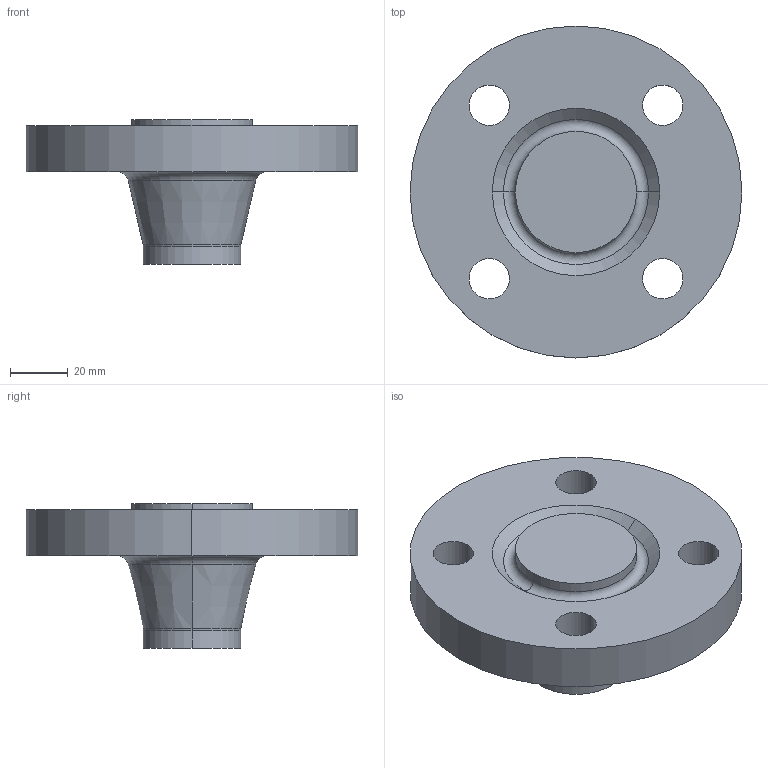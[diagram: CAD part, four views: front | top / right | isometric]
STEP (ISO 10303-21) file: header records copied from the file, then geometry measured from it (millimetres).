
FILE_DESCRIPTION (( 'STEP AP214' ), '1' );
FILE_NAME ('PN40 DN25 Type 21(ii) - Type H Face.STEP', '2018-12-29T19:45:10', ( '' ), ( '' ), 'SwSTEP 2.0', 'SolidWorks 2019', '' );
FILE_SCHEMA (( 'AUTOMOTIVE_DESIGN' ));
Length unit declared in the file: millimetre
Products named in the file (1): PN40 DN25 Type 21(ii) - Type H Face
Bounding box: 115 x 115 x 50 mm (x, y, z)
Volume: 193723.4 mm3; surface area: 32102.9 mm2
Topology: 1 solids, 1 shells, 28 faces, 62 edges, 38 vertices
Faces by surface type: cylinder 14, torus 6, cone 4, plane 4
Entity records: 840 total; most frequent: DIRECTION 164, CARTESIAN_POINT 129, ORIENTED_EDGE 124, AXIS2_PLACEMENT_3D 73, EDGE_CURVE 62, CIRCLE 44, EDGE_LOOP 38, VERTEX_POINT 38
